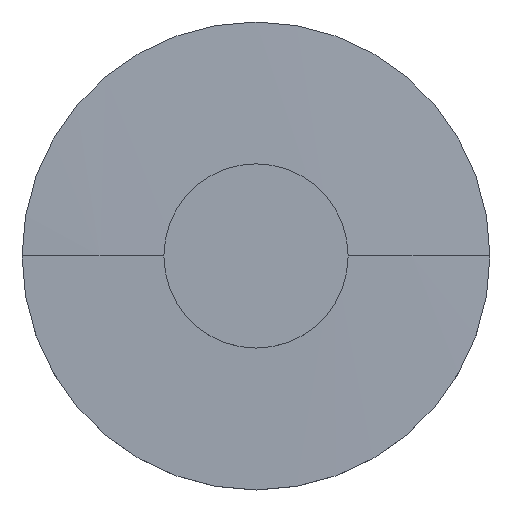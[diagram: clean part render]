
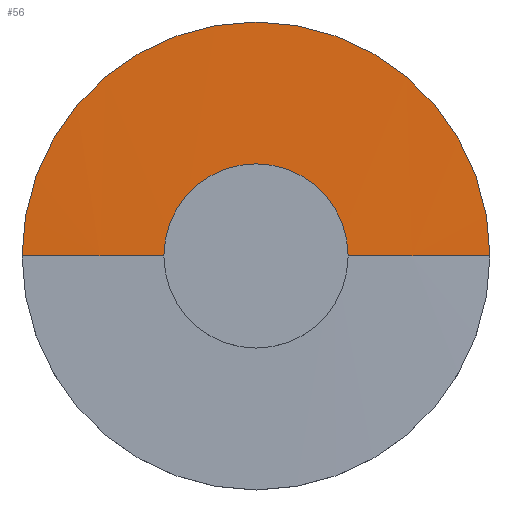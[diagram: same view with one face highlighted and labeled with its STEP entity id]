
A CAD part, top view. The second image highlights one B-rep face of the part: STEP entity #56.
In plain terms, the highlighted spherical face has radius 706.714 mm.
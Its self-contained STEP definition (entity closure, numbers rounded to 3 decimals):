
#56=ADVANCED_FACE('',(#69),#70,.T.);
#69=FACE_OUTER_BOUND('',#89,.T.);
#70=SPHERICAL_SURFACE('',#90,706.714);
#89=EDGE_LOOP('',(#118,#119,#120));
#90=AXIS2_PLACEMENT_3D('',#121,#122,#123);
#118=ORIENTED_EDGE('',*,*,#173,.F.);
#119=ORIENTED_EDGE('',*,*,#172,.T.);
#120=ORIENTED_EDGE('',*,*,#174,.F.);
#121=CARTESIAN_POINT('',(0.0,0.0,-699.714));
#122=DIRECTION('',(0.0,0.0,1.0));
#123=DIRECTION('',(1.0,0.0,0.0));
#172=EDGE_CURVE('',#189,#191,#193,.T.);
#173=EDGE_CURVE('',#189,#194,#195,.T.);
#174=EDGE_CURVE('',#194,#191,#196,.T.);
#189=VERTEX_POINT('',#215);
#191=VERTEX_POINT('',#218);
#193=CIRCLE('',#221,25.4);
#194=VERTEX_POINT('',#222);
#195=CIRCLE('',#223,706.714);
#196=CIRCLE('',#224,706.714);
#215=CARTESIAN_POINT('',(25.4,0.,6.543));
#218=CARTESIAN_POINT('',(-25.4,0.,6.543));
#221=AXIS2_PLACEMENT_3D('',#250,#251,#252);
#222=CARTESIAN_POINT('',(0.0,0.0,7.0));
#223=AXIS2_PLACEMENT_3D('',#253,#254,#255);
#224=AXIS2_PLACEMENT_3D('',#256,#257,#258);
#250=CARTESIAN_POINT('',(0.0,0.0,6.543));
#251=DIRECTION('',(0.0,0.0,1.0));
#252=DIRECTION('',(1.0,0.0,0.0));
#253=CARTESIAN_POINT('',(0.0,0.0,-699.714));
#254=DIRECTION('',(0.,-1.0,0.0));
#255=DIRECTION('',(0.0,0.0,1.0));
#256=CARTESIAN_POINT('',(0.0,0.0,-699.714));
#257=DIRECTION('',(0.,-1.0,0.0));
#258=DIRECTION('',(0.0,0.0,1.0));
